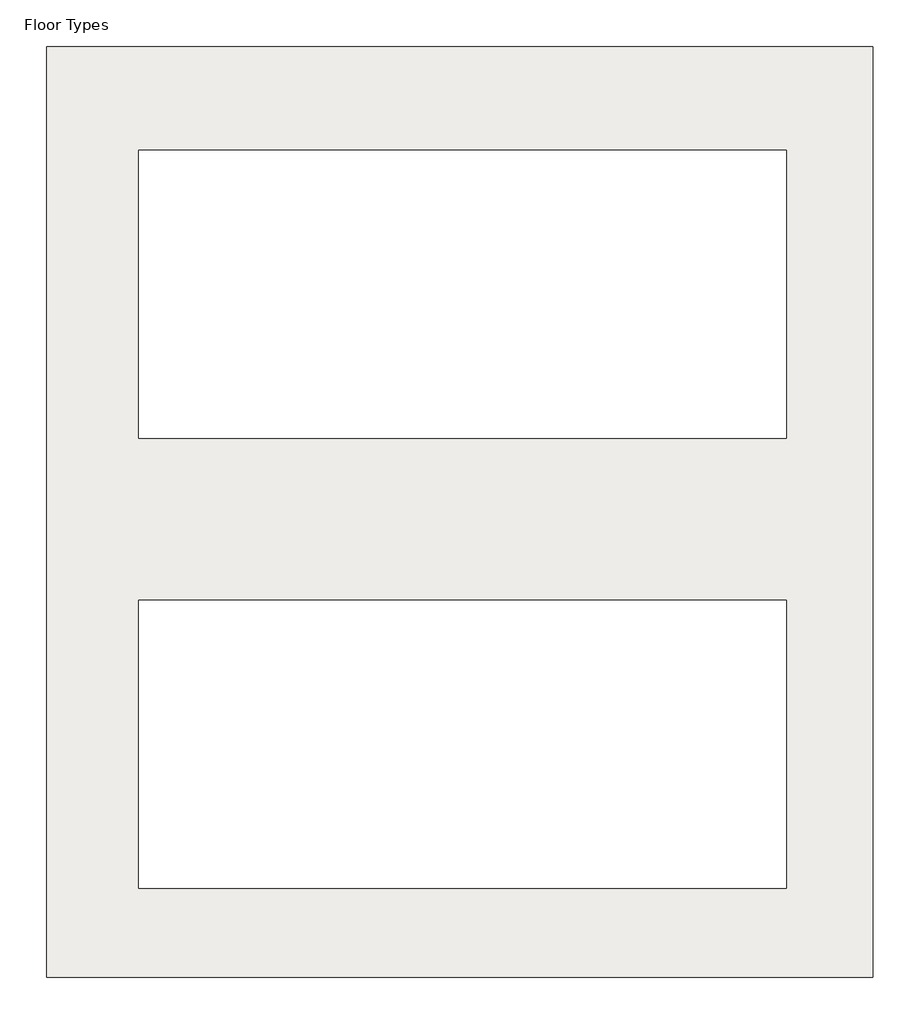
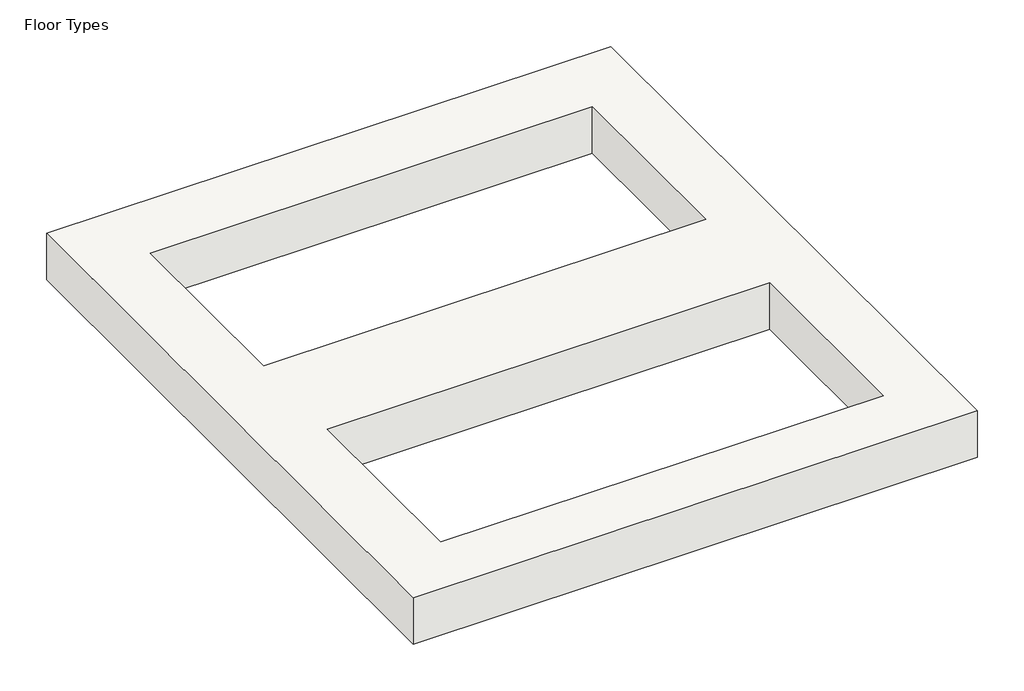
# One storey, incomplete: 1 roof.
"""IFC4 building model written with IfcOpenShell, lengths in millimetres."""

from ifc_helpers import new_model, si_unit, origin, origin_with_axes, place, context, project, spatial, polyline, outline, extrude, element, save

model = new_model("IFC4")

# Units and contexts
model_context = context("Model", 3, world=origin())
ifc_project = project(units=[si_unit("LENGTHUNIT", "METRE", prefix="MILLI")], contexts=[model_context])

# Site, building, storey
site = spatial("IfcSite", under=ifc_project)
building = spatial("IfcBuilding", under=site)
storey = spatial("IfcBuildingStorey", under=building, Name="Floor Types", Elevation=0.0)

# Roof
placement = place(None, origin())
element("IfcRoof", 1, ObjectType="Roof 01", at=placement, inside=storey, context=model_context, shape_type="SweptSolid", body=[
    extrude(outline(polyline([(-7003.0851383, 9705.5150713), (-7003.0851383, 13645.5150713), (-3503.0851383, 13645.5150713), (-3503.0851383, 9705.5150713), (-7003.0851383, 9705.5150713)]), holes=[polyline([(-6613.8892829, 11988.2169976), (-3870.6892829, 11988.2169976), (-3870.6892829, 13207.4169976), (-6613.8892829, 13207.4169976), (-6613.8892829, 11988.2169976)]), polyline([(-6613.8892829, 10083.2169976), (-3870.6892829, 10083.2169976), (-3870.6892829, 11302.4169976), (-6613.8892829, 11302.4169976), (-6613.8892829, 10083.2169976)])]), origin_with_axes(), (0.0, 0.0, 1.0), 304.8),
])

save(model, "model.ifc")
